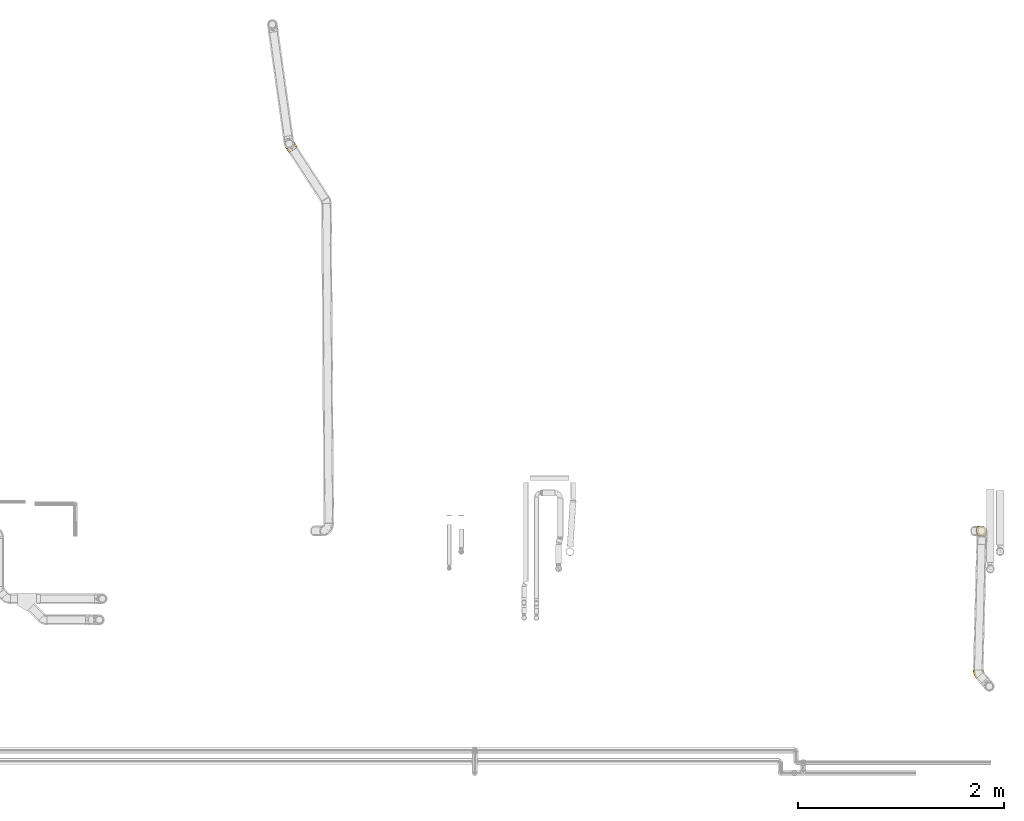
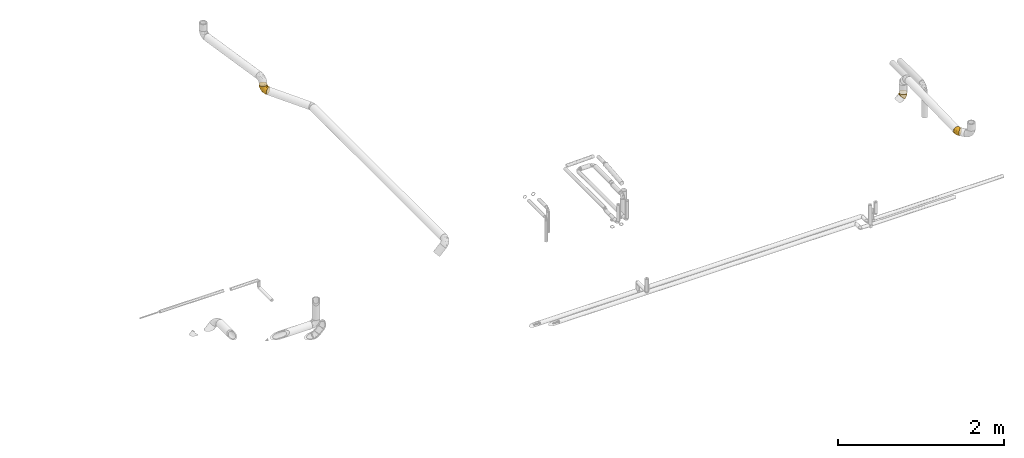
# One storey, part 38 of 156: 3 coverings.
"""IFC2X3 building model written with IfcOpenShell, lengths in millimetres."""

from ifc_helpers import new_model, entity, si_unit, converted_unit, derived_unit, direction, frame, origin_with_axes, place, context, subcontext, project, spatial, open_shell, surface_model, source, transform, mapped, element, save


model = new_model("IFC2X3")

# Units and contexts
model_context = context("Model", 3, precision=0.01, world=frame((0.0, 4.29681676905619e-09, 0.0)), true_north=direction((4.01073788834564e-13, 1.0)))
plan_context = context("Plan", 3, precision=0.01, world=frame((0.0, 4.29681676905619e-09, 0.0)), true_north=direction((4.01073788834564e-13, 1.0)))
body_context = subcontext(model_context, "Body", "Model", "MODEL_VIEW")
ifc_project = project(units=[converted_unit("PLANEANGLEUNIT", "DEGREE", entity("IfcPositiveLengthMeasure", 0.0174532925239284), si_unit("PLANEANGLEUNIT", "RADIAN"), dimensions=[0, 0, 0, 0, 0, 0, 0]), si_unit("AREAUNIT", "SQUARE_METRE"), si_unit("LENGTHUNIT", "METRE", prefix="MILLI"), si_unit("MASSUNIT", "GRAM", prefix="KILO"), si_unit("POWERUNIT", "WATT"), si_unit("PRESSUREUNIT", "PASCAL", prefix="KILO"), si_unit("FORCEUNIT", "NEWTON", prefix="KILO"), si_unit("ELECTRICVOLTAGEUNIT", "VOLT"), si_unit("ELECTRICCURRENTUNIT", "AMPERE"), si_unit("THERMODYNAMICTEMPERATUREUNIT", "DEGREE_CELSIUS"), si_unit("TIMEUNIT", "SECOND"), si_unit("VOLUMEUNIT", "CUBIC_METRE"), derived_unit("LINEARVELOCITYUNIT", [(si_unit("LENGTHUNIT", "METRE"), 1), (si_unit("TIMEUNIT", "SECOND"), -1)]), derived_unit("VOLUMETRICFLOWRATEUNIT", [(si_unit("VOLUMEUNIT", "CUBIC_METRE"), 1), (si_unit("TIMEUNIT", "SECOND"), -1)]), derived_unit("THERMALTRANSMITTANCEUNIT", [(si_unit("POWERUNIT", "WATT"), 1), (si_unit("THERMODYNAMICTEMPERATUREUNIT", "KELVIN"), -1), (si_unit("AREAUNIT", "SQUARE_METRE"), -1)]), derived_unit("SOUNDPRESSUREUNIT", [(si_unit("PRESSUREUNIT", "PASCAL"), 1)])], contexts=[model_context, plan_context])

# Site, building, storey
site_placement = place(None, frame((0.0, -4.29681676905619e-09, 0.0), z_axis=(0.0, 0.0, 1.0), x_axis=(1.0, 0.0, 0.0)))
site = spatial("IfcSite", under=ifc_project, at=site_placement, CompositionType="ELEMENT")
building_placement = place(site_placement, frame((0.0, 4.29681676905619e-09, 0.0), z_axis=(0.0, 0.0, 1.0), x_axis=(1.0, 0.0, 0.0)))
building = spatial("IfcBuilding", under=site, at=building_placement, Name="mc-building", CompositionType="ELEMENT")
storey_placement = place(building_placement, frame((0.0, 0.0, 205200.0), z_axis=(0.0, 0.0, 1.0), x_axis=(1.0, 0.0, 0.0)))
storey = spatial("IfcBuildingStorey", under=building, at=storey_placement, Name="Nivå D + 1,2 m", CompositionType="ELEMENT", Elevation=205200.0)

# Coverings
shared_shape_1 = source(origin_with_axes(), body_context, "Body", "SurfaceModel", [
    surface_model("IfcShellBasedSurfaceModel", [(-12.8457, 56.77968, 11.24292), (-12.84764, 56.78162, -11.23089), (-13.7419, 57.67589, 0.0), (-5.947, 49.88099, 31.49394), (-10.2029, 54.13688, 21.91909), (6.47865, 37.45533, 45.50245), (14.02555, 29.90843, 49.23533), (-0.29194, 44.22592, 39.48835), (29.91694, 14.01705, 49.23258), (21.96699, 21.96699, 50.5), (-31.06602, 25.25, -43.73428), (-31.06602, 50.5, 0.0), (-31.06602, 48.77925, -13.07036), (-31.06602, 43.73428, -25.25), (-31.06602, 13.07036, 48.77925), (-31.06602, 35.70889, -35.70889), (-31.06602, 13.07036, -48.77925), (-31.06602, 48.77925, 13.07036), (-31.06602, 35.70889, 35.70889), (-31.06602, 43.73428, 25.25), (-31.06602, 25.25, 43.73428), (-31.06602, 0.0, 50.5), (-31.06602, 0.0, -50.5), (-31.06602, -35.70889, -35.70889), (-31.06602, -13.07036, -48.77925), (-31.06602, -25.25, -43.73428), (-31.06602, -25.25, 43.73428), (-31.06602, -43.73428, -25.25), (-31.06602, -48.77925, -13.07036), (-31.06602, -50.5, 0.0), (-31.06602, -35.70889, 35.70889), (-31.06602, -13.07036, 48.77925), (-31.06602, -43.73428, 25.25), (-31.06602, -48.77925, 13.07036), (44.23657, -0.30259, 39.47635), (27.91001, -19.77547, 34.76667), (49.88947, -5.95549, 31.47888), (1.41577, -46.22369, 0.0), (-11.40017, -47.38831, 12.38309), (-8.74293, -38.48357, 29.95251), (31.68398, -33.68619, 0.0), (7.55474, -42.53704, 13.29129), (-9.06389, -30.95235, 38.04162), (34.28789, -29.09431, 15.96636), (15.01424, -34.38084, 25.32479), (-2.36476, 5.70904, 50.5), (-9.36764, -7.03445, 49.52895), (10.2572, 2.07109, 49.72335), (-8.37178, -17.70659, 46.1768), (9.50066, -20.74611, 41.35329), (14.85338, -6.42265, 46.9978), (-9.29892, -44.09145, 20.69599), (8.90841, -30.40154, 33.56936), (56.78162, -12.84764, 11.23089), (54.14208, -10.2081, 21.90382), (36.21763, -22.18027, 26.15461), (57.67589, -13.7419, 0.0), (27.84037, -9.29064, 42.13676), (37.46613, 6.46785, 45.49509), (-20.79304, 48.58309, 19.32551), (-26.44918, 47.1374, 19.07845), (-23.61531, 41.83953, 29.46524), (-1.17488, 17.41452, 49.47585), (-14.06989, 12.68578, 49.4155), (-21.92445, 19.8307, 46.75749), (-10.88746, 23.11094, 46.65592), (-18.20524, 54.69358, 0.0), (8.30371, 12.83748, 50.5), (-24.3338, 50.31714, 10.40952), (-19.30689, 52.34596, 10.11883), (-22.20424, 36.19202, 36.21736), (-18.99815, 30.03676, 41.72657), (-15.7369, 38.81514, 35.7157), (-8.57232, 42.77641, 35.7157), (-5.52639, 34.19353, 42.76423), (-13.96266, 47.66429, 26.87553), (-1.08153, 26.97177, 47.03628), (-16.2501, 51.28088, 18.38671), (-21.69027, 52.36495, 0.0), (-25.80115, 51.54725, 0.0), (-14.94908, 3.20586, 50.5), (-3.53914, 35.52551, -42.7546), (-10.74577, 41.37941, -35.70208), (-0.30259, 44.23657, -39.47635), (6.46785, 37.46613, -45.49509), (14.01705, 29.91694, -49.23258), (-0.90387, 25.09239, -47.6637), (-12.62734, 48.55836, -26.86021), (-5.95549, 49.88947, -31.47888), (-26.37815, 51.43248, 0.0), (-23.87524, 48.92946, -15.82645), (-16.71539, 2.85452, -50.5), (-18.51789, 45.30675, -26.86021), (-19.58101, 37.43174, -35.70238), (-24.61924, 42.24315, -28.60873), (-15.34005, 17.97223, -47.95027), (-22.11394, 29.49513, -41.60502), (-16.92844, 51.60902, -16.67216), (-10.2081, 54.14208, -21.90382), (-2.36476, 5.70904, -50.5), (-12.33365, 30.67097, -42.7546), (8.30371, 12.83748, -50.5), (21.96699, 21.96699, -50.5), (-9.39093, -7.02944, -49.5311), (14.84809, -6.40997, -47.00316), (-8.36548, -17.69129, -46.18271), (27.90408, -19.76379, -34.78041), (36.21251, -22.17262, -26.1698), (15.00964, -34.37336, -25.33976), (44.22592, -0.29194, -39.48835), (49.88099, -5.947, -31.49394), (34.28306, -29.09205, -15.9798), (54.13688, -10.2029, -21.91909), (-11.41141, -47.38686, -12.39583), (10.21933, 2.05233, -49.72376), (7.53272, -42.54113, -13.30224), (-9.05791, -30.94797, -38.0443), (-8.75334, -38.48533, -29.95289), (-9.30865, -44.09015, -20.70274), (37.45533, 6.47865, -45.50245), (29.90843, 14.02555, -49.23533), (9.49658, -20.73201, -41.3635), (27.83229, -9.278, -42.14666), (8.91048, -30.40337, -33.56661), (56.77968, -12.8457, -11.24292)], [open_shell([[[0, 1, 2]], [[3, 0, 4]], [[5, 6, 7]], [[0, 3, 7]], [[8, 6, 9]], [[10, 11, 12]], [[10, 12, 13]], [[11, 10, 14]], [[10, 13, 15]], [[14, 10, 16]], [[17, 18, 19]], [[18, 17, 14]], [[18, 14, 20]], [[17, 11, 14]], [[16, 21, 14]], [[16, 22, 21]], [[23, 22, 24]], [[23, 24, 25]], [[26, 23, 27]], [[23, 26, 21]], [[28, 29, 27]], [[26, 29, 30]], [[31, 21, 26]], [[32, 29, 33]], [[29, 32, 30]], [[27, 29, 26]], [[21, 22, 23]], [[34, 35, 36]], [[29, 37, 38]], [[32, 39, 30]], [[37, 40, 41]], [[42, 26, 30]], [[43, 44, 41]], [[45, 46, 47]], [[42, 48, 26]], [[46, 21, 31]], [[48, 49, 50]], [[38, 51, 33]], [[49, 42, 52]], [[39, 42, 30]], [[48, 46, 31]], [[43, 41, 40]], [[40, 53, 43]], [[54, 36, 55]], [[54, 55, 43]], [[50, 46, 48]], [[56, 53, 40]], [[57, 35, 34]], [[26, 48, 31]], [[44, 39, 51]], [[47, 9, 45]], [[58, 8, 50]], [[50, 49, 57]], [[43, 55, 44]], [[35, 55, 36]], [[58, 57, 34]], [[38, 41, 51]], [[50, 47, 46]], [[54, 43, 53]], [[21, 46, 45]], [[55, 35, 44]], [[51, 39, 32]], [[44, 35, 52]], [[52, 42, 39]], [[42, 49, 48]], [[44, 52, 39]], [[49, 52, 35]], [[50, 8, 47]], [[9, 47, 8]], [[33, 51, 32]], [[44, 51, 41]], [[50, 57, 58]], [[35, 57, 49]], [[29, 38, 33]], [[37, 41, 38]], [[59, 60, 61]], [[62, 63, 45]], [[14, 63, 64]], [[63, 62, 65]], [[0, 2, 66]], [[67, 6, 62]], [[59, 68, 60]], [[0, 66, 69]], [[70, 71, 72]], [[73, 74, 7]], [[61, 75, 59]], [[68, 59, 69]], [[74, 5, 7]], [[76, 6, 5]], [[3, 73, 7]], [[59, 77, 69]], [[70, 20, 71]], [[67, 62, 45]], [[62, 76, 65]], [[64, 65, 71]], [[68, 69, 78]], [[69, 77, 0]], [[68, 78, 79]], [[71, 74, 72]], [[66, 78, 69]], [[59, 75, 77]], [[75, 3, 4]], [[73, 75, 72]], [[65, 76, 74]], [[14, 21, 80]], [[67, 9, 6]], [[17, 79, 11]], [[63, 80, 45]], [[79, 17, 68]], [[60, 68, 17]], [[64, 63, 65]], [[14, 80, 63]], [[17, 19, 60]], [[61, 60, 19]], [[18, 61, 19]], [[61, 72, 75]], [[65, 74, 71]], [[20, 14, 64]], [[72, 61, 70]], [[20, 64, 71]], [[75, 73, 3]], [[74, 73, 72]], [[75, 4, 77]], [[0, 77, 4]], [[6, 76, 62]], [[5, 74, 76]], [[61, 18, 70]], [[20, 70, 18]], [[81, 82, 83]], [[84, 85, 86]], [[82, 87, 88]], [[12, 89, 90]], [[16, 91, 22]], [[92, 93, 94]], [[95, 10, 96]], [[66, 2, 1]], [[82, 93, 92]], [[90, 97, 92]], [[90, 92, 94]], [[91, 16, 95]], [[98, 97, 1]], [[99, 95, 86]], [[88, 87, 98]], [[88, 83, 82]], [[13, 12, 90]], [[15, 93, 96]], [[87, 97, 98]], [[92, 87, 82]], [[95, 100, 86]], [[81, 83, 84]], [[99, 86, 101]], [[86, 85, 101]], [[66, 97, 78]], [[81, 86, 100]], [[93, 82, 100]], [[90, 78, 97]], [[10, 95, 16]], [[97, 66, 1]], [[85, 102, 101]], [[95, 99, 91]], [[97, 87, 92]], [[86, 81, 84]], [[82, 81, 100]], [[96, 93, 100]], [[94, 15, 13]], [[95, 96, 100]], [[15, 96, 10]], [[15, 94, 93]], [[90, 94, 13]], [[89, 12, 11]], [[89, 78, 90]], [[103, 104, 105]], [[106, 107, 108]], [[99, 103, 22]], [[106, 109, 110]], [[111, 107, 112]], [[25, 24, 105]], [[28, 113, 29]], [[103, 99, 114]], [[111, 115, 108]], [[103, 105, 24]], [[116, 25, 105]], [[27, 117, 118]], [[22, 103, 24]], [[23, 117, 27]], [[119, 104, 120]], [[105, 121, 116]], [[104, 119, 122]], [[28, 118, 113]], [[122, 119, 109]], [[107, 106, 110]], [[123, 108, 117]], [[121, 122, 106]], [[115, 111, 40]], [[107, 110, 112]], [[124, 56, 40]], [[115, 40, 37]], [[124, 40, 111]], [[107, 111, 108]], [[105, 104, 121]], [[124, 111, 112]], [[114, 104, 103]], [[114, 102, 120]], [[118, 28, 27]], [[117, 116, 123]], [[116, 117, 23]], [[118, 108, 115]], [[25, 116, 23]], [[123, 121, 106]], [[121, 123, 116]], [[108, 123, 106]], [[102, 114, 99]], [[120, 104, 114]], [[108, 118, 117]], [[118, 115, 113]], [[106, 122, 109]], [[104, 122, 121]], [[115, 37, 113]], [[29, 113, 37]], [[83, 88, 84]], [[85, 120, 102]], [[110, 109, 112]], [[36, 58, 34]], [[119, 112, 109]], [[85, 84, 88]], [[7, 6, 0]], [[0, 120, 85]], [[0, 98, 1]], [[0, 88, 98]], [[88, 0, 85]], [[0, 6, 120]], [[120, 6, 8]], [[58, 120, 8]], [[36, 119, 58]], [[36, 54, 124]], [[54, 53, 124]], [[119, 120, 58]], [[124, 112, 119]], [[36, 124, 119]], [[56, 124, 53]]])]),
])
covering_1_placement = place(storey_placement, frame((347962.03069, 461168.55904, 4070.95318000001), z_axis=(0.0, -1.0, 0.0), x_axis=(0.707106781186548, 0.0, 0.707106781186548)))
element("IfcCovering", 1, at=covering_1_placement, inside=storey, Name="BI17T - Cellegummi 13 mm SPV fett", PredefinedType="INSULATION", context=body_context, shape_type="MappedRepresentation", body=[
    mapped(shared_shape_1, transform((0.0, 0.0, 0.0), scale=1.0)),
])
shared_shape_2 = source(origin_with_axes(), body_context, "Body", "SurfaceModel", [
    surface_model("IfcShellBasedSurfaceModel", [(-11.34242, 55.7024, 11.24292), (-11.34424, 55.70446, -11.23089), (-12.1823, 56.6516, 0.0), (-4.87729, 48.39582, 31.49394), (-8.86571, 52.90335, 21.91909), (6.76744, 35.23551, 45.50245), (13.84004, 27.24239, 49.23533), (0.42237, 42.40641, 39.48835), (47.44999, -10.74198, 31.47888), (-8.87058, 52.90886, -21.90382), (42.14238, -4.74357, -39.48835), (13.83206, 27.2514, -49.23258), (-4.88524, 48.40482, -31.47888), (6.75732, 35.24694, -45.49509), (0.41239, 42.41768, -39.47635), (21.28237, 18.83142, -50.5), (21.28237, 18.83142, 50.5), (28.73268, 10.41143, 49.23258), (35.80743, 2.41589, 45.49509), (51.43533, -15.24602, 21.90382), (53.90717, -18.03957, -11.24292), (42.15236, -4.75485, 39.47635), (54.74704, -18.98876, 0.0), (53.90898, -18.04163, 11.23089), (35.79731, 2.42733, -45.50245), (28.72471, 10.42044, -49.23533), (51.43045, -15.24051, -21.91909), (47.44204, -10.73299, -31.49394), (-28.41763, 25.25, -43.73428), (-28.41763, 50.5, 0.0), (-28.41763, 48.77925, -13.07036), (-28.41763, 43.73428, -25.25), (-28.41763, 13.07036, 48.77925), (-28.41763, 35.70889, -35.70889), (-28.41763, 13.07036, -48.77925), (-28.41763, 48.77925, 13.07036), (-28.41763, 35.70889, 35.70889), (-28.41763, 43.73428, 25.25), (-28.41763, 25.25, 43.73428), (-28.41763, 0.0, 50.5), (-28.41763, 0.0, -50.5), (-28.41763, -35.70889, -35.70889), (-28.41763, -13.07036, -48.77925), (-28.41763, -25.25, -43.73428), (-28.41763, -25.25, 43.73428), (-28.41763, -43.73428, -25.25), (-28.41763, -48.77925, -13.07036), (-28.41763, -50.5, 0.0), (-28.41763, -35.70889, 35.70889), (-28.41763, -13.07036, 48.77925), (-28.41763, -43.73428, 25.25), (-28.41763, -48.77925, 13.07036), (25.59155, -22.57102, 34.87712), (1.59175, -46.85929, 0.0), (14.31654, -35.58392, 25.55999), (0.97584, -33.05061, 34.39377), (-7.16069, -40.5612, 27.27638), (29.86001, -36.1484, 0.0), (3.50217, -44.36627, 13.86126), (31.65408, -32.19602, 16.05353), (-5.38919, -7.46594, 49.3705), (11.81405, 2.68366, 49.90114), (-1.84362, 4.86569, 50.5), (9.16533, -21.61559, 41.57399), (13.34439, -8.40045, 47.07841), (-7.9617, -18.72252, 45.95901), (34.48541, -24.98789, 26.27114), (-21.72085, 50.45536, 9.70757), (-23.18405, 47.46407, 18.54624), (-17.66861, 49.86572, 16.68598), (-11.20688, 12.00605, 49.5602), (7.20217, 10.32841, 50.5), (-5.4686, 21.3765, 47.66853), (-6.811, 32.26909, 42.60183), (-17.74819, 29.39098, 41.91998), (-17.86, 19.52368, 46.97832), (-20.88187, 42.77962, 28.17432), (-7.36265, 41.81847, 35.7157), (-13.79468, 46.08054, 27.12974), (-14.17482, 38.37394, 35.7157), (-21.258, 36.83564, 35.24188), (-16.78183, 53.87395, 0.0), (-19.73679, 52.08946, 0.0), (-12.2381, 2.96246, 50.5), (-23.13232, 51.46774, 0.0), (-2.65515, 34.35201, -42.7546), (-9.79501, 40.4102, -35.70208), (-0.7756, 23.6537, -47.6637), (-21.8864, 48.35042, -16.97437), (-15.46114, 50.9347, -16.67216), (-24.07721, 51.29473, 0.0), (-15.13062, 2.43284, -50.5), (-22.61263, 44.31828, -25.18117), (-18.72697, 36.55872, -36.05827), (-11.01944, 30.13055, -42.7546), (-14.61363, 18.65716, -47.55589), (-19.15937, 26.0649, -43.76496), (7.20217, 10.32841, -50.5), (-16.76315, 44.94475, -26.86021), (-1.84362, 4.86569, -50.5), (-11.16082, 47.77231, -26.86021), (13.33987, -8.38741, -47.08372), (0.96997, -33.0395, -34.40694), (-5.38231, -7.45666, -49.37202), (25.58619, -22.559, -34.89085), (-7.16911, -40.55339, -27.2907), (14.31201, -35.57622, -25.57501), (-7.97736, -18.70884, -45.96661), (9.16177, -21.6012, -41.58413), (11.81245, 2.68927, -49.90202), (31.64902, -32.19367, -16.067), (3.47616, -44.37001, -13.87212), (34.48061, -24.97995, -26.28636)], [open_shell([[[0, 1, 2]], [[3, 0, 4]], [[5, 6, 7]], [[0, 7, 8]], [[0, 3, 7]], [[9, 0, 10]], [[9, 11, 12]], [[9, 1, 0]], [[13, 14, 11]], [[11, 14, 12]], [[9, 10, 11]], [[10, 15, 11]], [[16, 7, 6]], [[8, 16, 17]], [[8, 17, 18]], [[19, 0, 8]], [[20, 0, 19]], [[18, 21, 8]], [[22, 19, 23]], [[15, 24, 25]], [[10, 24, 15]], [[26, 10, 20]], [[27, 10, 26]], [[20, 10, 0]], [[19, 22, 20]], [[8, 7, 16]], [[28, 29, 30]], [[28, 30, 31]], [[29, 28, 32]], [[28, 31, 33]], [[32, 28, 34]], [[35, 36, 37]], [[36, 35, 32]], [[36, 32, 38]], [[35, 29, 32]], [[34, 39, 32]], [[34, 40, 39]], [[41, 40, 42]], [[41, 42, 43]], [[44, 41, 45]], [[41, 44, 39]], [[46, 47, 45]], [[44, 47, 48]], [[49, 39, 44]], [[50, 47, 51]], [[47, 50, 48]], [[45, 47, 44]], [[39, 40, 41]], [[21, 52, 8]], [[51, 47, 53]], [[54, 55, 56]], [[53, 57, 58]], [[55, 44, 48]], [[59, 54, 58]], [[60, 61, 62]], [[63, 64, 65]], [[60, 39, 49]], [[65, 64, 60]], [[50, 51, 58]], [[55, 52, 63]], [[54, 52, 55]], [[63, 65, 44]], [[59, 58, 57]], [[57, 23, 59]], [[19, 8, 66]], [[19, 66, 59]], [[17, 61, 64]], [[22, 23, 57]], [[21, 63, 52]], [[59, 66, 54]], [[58, 54, 56]], [[61, 16, 62]], [[18, 17, 64]], [[63, 18, 64]], [[56, 48, 50]], [[44, 55, 63]], [[18, 63, 21]], [[51, 53, 58]], [[52, 66, 8]], [[19, 59, 23]], [[49, 44, 65]], [[66, 52, 54]], [[39, 60, 62]], [[49, 65, 60]], [[64, 61, 60]], [[16, 61, 17]], [[48, 56, 55]], [[58, 56, 50]], [[67, 68, 69]], [[70, 62, 71]], [[72, 73, 74]], [[74, 75, 72]], [[69, 68, 76]], [[77, 73, 7]], [[78, 76, 79]], [[74, 73, 79]], [[79, 76, 80]], [[0, 2, 81]], [[71, 16, 6]], [[35, 68, 67]], [[3, 4, 78]], [[74, 79, 80]], [[3, 77, 7]], [[69, 78, 4]], [[74, 36, 38]], [[72, 6, 5]], [[7, 73, 5]], [[75, 70, 72]], [[4, 0, 69]], [[79, 77, 78]], [[67, 81, 82]], [[72, 70, 71]], [[78, 77, 3]], [[0, 81, 69]], [[68, 37, 76]], [[73, 77, 79]], [[69, 76, 78]], [[72, 71, 6]], [[80, 37, 36]], [[5, 73, 72]], [[38, 32, 75]], [[39, 83, 70]], [[67, 82, 84]], [[29, 35, 67]], [[37, 68, 35]], [[67, 69, 81]], [[67, 84, 29]], [[37, 80, 76]], [[74, 80, 36]], [[38, 75, 74]], [[32, 39, 70]], [[32, 70, 75]], [[62, 70, 83]], [[85, 86, 14]], [[11, 87, 13]], [[88, 82, 89]], [[90, 82, 88]], [[34, 91, 40]], [[33, 92, 93]], [[94, 95, 96]], [[11, 15, 97]], [[93, 98, 86]], [[88, 89, 98]], [[92, 88, 98]], [[95, 99, 91]], [[1, 9, 89]], [[33, 31, 92]], [[12, 100, 9]], [[12, 14, 86]], [[88, 31, 30]], [[33, 93, 96]], [[100, 89, 9]], [[98, 100, 86]], [[87, 95, 94]], [[85, 14, 13]], [[99, 87, 97]], [[87, 11, 97]], [[95, 87, 99]], [[85, 87, 94]], [[93, 86, 94]], [[86, 100, 12]], [[28, 95, 34]], [[89, 81, 1]], [[93, 94, 96]], [[29, 90, 30]], [[81, 89, 82]], [[81, 2, 1]], [[89, 100, 98]], [[87, 85, 13]], [[86, 85, 94]], [[93, 92, 98]], [[31, 88, 92]], [[30, 90, 88]], [[91, 34, 95]], [[95, 28, 96]], [[96, 28, 33]], [[25, 24, 101]], [[43, 102, 41]], [[99, 103, 40]], [[104, 10, 27]], [[105, 102, 106]], [[107, 101, 108]], [[47, 46, 53]], [[103, 99, 109]], [[110, 111, 106]], [[104, 112, 106]], [[108, 102, 43]], [[45, 105, 111]], [[43, 42, 107]], [[105, 41, 102]], [[103, 109, 101]], [[110, 112, 26]], [[108, 101, 24]], [[53, 46, 111]], [[108, 24, 10]], [[112, 104, 27]], [[102, 104, 106]], [[104, 108, 10]], [[111, 110, 57]], [[112, 27, 26]], [[20, 22, 57]], [[111, 57, 53]], [[20, 57, 110]], [[112, 110, 106]], [[107, 108, 43]], [[20, 110, 26]], [[107, 103, 101]], [[109, 15, 25]], [[45, 111, 46]], [[108, 104, 102]], [[107, 42, 103]], [[40, 103, 42]], [[15, 109, 99]], [[101, 109, 25]], [[111, 105, 106]], [[41, 105, 45]]])]),
])
covering_2_placement = place(storey_placement, frame((347928.57176, 459787.38101, 4377.40570999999), z_axis=(0.0138610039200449, 0.0116310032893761, 0.999836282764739), x_axis=(-0.0261559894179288, -0.999585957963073, 0.0119906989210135)))
element("IfcCovering", 2, at=covering_2_placement, inside=storey, Name="BI17T - Cellegummi 13 mm SPV fett", PredefinedType="INSULATION", context=body_context, shape_type="MappedRepresentation", body=[
    mapped(shared_shape_2, transform((0.0, 0.0, 0.0), scale=1.0)),
])
shared_shape_3 = source(origin_with_axes(), body_context, "Body", "SurfaceModel", [
    surface_model("IfcShellBasedSurfaceModel", [(-45.49831, 73.29097, 0.0), (-44.23398, 73.20255, 11.24292), (-40.50559, 72.94184, 21.91909), (-34.50151, 72.522, 31.49394), (-16.97179, 71.2962, 45.50245), (-6.32486, 70.55169, 49.23533), (-26.52353, 71.96412, 39.48835), (-40.51293, 72.94235, -21.90382), (-26.53855, 71.96517, -39.47635), (-34.51349, 72.52283, -31.47888), (-44.23672, 73.20275, -11.23089), (-16.98703, 71.29727, -45.49509), (4.87867, 69.76827, -50.5), (-6.33686, 70.55253, -49.23258), (4.87867, 69.76827, 50.5), (36.29589, 67.57136, 39.47635), (16.09421, 68.984, 49.23258), (26.74437, 68.23927, 45.49509), (44.27084, 67.0137, 31.47888), (50.27028, 66.59417, 21.90382), (53.99132, 66.33397, -11.24292), (53.99406, 66.33378, 11.23089), (26.72914, 68.24033, -45.50245), (44.25886, 67.01453, -31.49394), (36.28087, 67.57241, -39.48835), (16.0822, 68.98484, -49.23533), (50.26294, 66.59469, -21.91909), (55.25566, 66.24556, 0.0), (-69.93863, 25.25, -43.73428), (-69.93863, 50.5, 0.0), (-69.93863, 48.77925, -13.07036), (-69.93863, 43.73428, -25.25), (-69.93863, 13.07036, 48.77925), (-69.93863, 35.70889, -35.70889), (-69.93863, 13.07036, -48.77925), (-69.93863, 48.77925, 13.07036), (-69.93863, 35.70889, 35.70889), (-69.93863, 43.73428, 25.25), (-69.93863, 25.25, 43.73428), (-69.93863, 0.0, 50.5), (-69.93863, 0.0, -50.5), (-69.93863, -35.70889, -35.70889), (-69.93863, -13.07036, -48.77925), (-69.93863, -25.25, -43.73428), (-69.93863, -25.25, 43.73428), (-69.93863, -43.73428, -25.25), (-69.93863, -48.77925, -13.07036), (-69.93863, -50.5, 0.0), (-69.93863, -35.70889, 35.70889), (-69.93863, -13.07036, 48.77925), (-69.93863, -43.73428, 25.25), (-69.93863, -48.77925, 13.07036), (13.79464, -14.79295, 16.36061), (0.96473, -28.55174, 0.0), (28.4149, -2.95405, 0.0), (-45.06617, -46.73839, 0.0), (-11.32409, -33.29244, 15.26443), (1.69459, -17.8078, 27.68127), (-40.67441, -43.71511, 17.77375), (-23.48175, -32.7381, 27.54331), (-48.45738, -39.1087, 29.32519), (-2.24474, 42.71167, 50.5), (-1.56918, 21.96688, 49.16688), (10.01339, 44.8691, 49.40882), (-12.30149, -10.52898, 41.93516), (-44.57901, -18.97667, 45.29078), (-40.34846, -29.0811, 38.04784), (-45.17287, -7.48569, 49.25973), (47.06801, 29.61612, 0.0), (47.2814, 37.25151, 15.2315), (36.57877, 11.0238, 11.15128), (34.72875, 16.98073, 23.55042), (-18.78875, 20.14847, 50.5), (-17.02751, -2.04468, 47.00362), (3.86049, 6.3304, 43.4086), (-24.03175, 5.46383, 49.80941), (-42.45104, 5.21868, 50.5), (29.82099, 45.46215, 41.3145), (36.38571, 37.73081, 33.63697), (44.7752, 44.8832, 25.47882), (20.69372, 3.50615, 30.25123), (4.92095, -4.67168, 37.04291), (22.11308, 18.34143, 38.14736), (-39.72402, -46.00861, 8.82053), (14.4074, 26.95031, 45.42098), (20.55956, 49.03489, 46.72847), (-32.82727, -44.88744, 0.0), (-14.97534, -21.34892, 35.49273), (-51.23202, 39.28696, 36.70493), (-39.56474, 34.69844, 44.13977), (-43.01724, 46.37196, 35.7157), (-50.80423, 12.67625, 49.53897), (-53.78529, 3.06681, 50.5), (-21.04161, 38.40077, 48.54282), (-34.26526, 22.66451, 49.13479), (-60.95858, 41.23821, 30.74245), (-59.83038, 18.30027, 47.4054), (-41.16436, 60.4464, 26.87553), (-38.72166, 66.9212, 26.87553), (-43.95964, 66.49323, 16.68598), (-65.1029, 47.07147, 19.32551), (-62.88789, 50.41549, 10.36717), (-31.05726, 42.69682, 44.18626), (-59.23725, 48.75371, 19.32551), (-45.99057, 53.89331, 26.35374), (-51.78799, 48.1579, 27.12438), (-59.89847, 31.89634, 40.06434), (-47.18002, 68.21586, 0.0), (-30.6199, 12.68358, 50.5), (-14.5064, 56.85047, 47.66853), (-32.59165, 62.77179, 35.7157), (-23.33426, 62.93879, 42.76423), (0.69254, 53.8682, 50.5), (-53.72223, 54.11018, 13.88147), (-26.98088, 53.27279, 42.76423), (-36.60497, 54.18743, 35.71532), (-48.11573, 59.57028, 14.83024), (-49.31392, 61.77611, 0.0), (-10.51674, 31.43007, 50.5), (-53.74979, 57.63959, 0.0), (-58.18566, 53.50308, 0.0), (-64.75857, 51.82359, 0.0), (-51.26318, 31.56879, 42.20951), (-49.79168, 23.09866, 46.65592), (-58.2024, 52.1433, 10.91523), (-51.23122, 39.28727, -36.70502), (-51.79491, 48.15118, -27.12704), (-43.02657, 46.38188, -35.70209), (-60.95858, 41.2382, -30.74245), (-65.1029, 47.07147, -19.32551), (-62.88789, 50.41549, -10.36717), (-59.23725, 48.75371, -19.32551), (-14.52003, 56.85327, -47.6637), (-58.20068, 52.14479, -10.91276), (-53.71887, 54.11203, -13.88358), (-38.73103, 66.92347, -26.8602), (-43.964, 66.49543, -16.67216), (-42.45104, 5.21868, -50.5), (-50.80423, 12.67625, -49.53897), (-34.26648, 22.66093, -49.13533), (-59.83038, 18.30027, -47.4054), (-23.34905, 62.94284, -42.7546), (-32.60459, 62.77602, -35.70208), (-53.78529, 3.06681, -50.5), (-59.89847, 31.89634, -40.06434), (-49.79167, 23.09866, -46.65592), (0.69254, 53.8682, -50.5), (-48.11411, 59.57816, -14.81975), (-26.99463, 53.27956, -42.7546), (-21.05949, 38.40048, -48.53876), (-39.5441, 34.70623, -44.14322), (-41.1729, 60.45085, -26.8602), (-51.26305, 31.56894, -42.20946), (-36.61587, 54.19423, -35.70247), (-2.24474, 42.71167, -50.5), (-33.82696, 44.46491, -42.21924), (-10.51674, 31.43007, -50.5), (-46.00665, 53.90054, -26.32619), (-18.78875, 20.14847, -50.5), (-30.6199, 12.68358, -50.5), (-24.03492, 5.46717, -49.81017), (1.69184, -17.79679, -27.69713), (4.91322, -4.66219, -37.05422), (20.68646, 3.5134, -30.26485), (-12.30517, -10.51921, -41.94198), (1.88909, 6.52942, -44.30519), (22.10144, 18.34737, -38.15866), (-1.57429, 21.97238, -49.16861), (-45.17287, -7.48569, -49.25973), (-23.46986, -32.7336, -27.54241), (-11.32153, -33.29166, -15.26272), (-40.66996, -43.71411, -17.7735), (-44.57847, -18.97659, -45.29075), (-40.34403, -29.08022, -38.04751), (-17.03276, -2.03898, -47.00663), (14.39607, 26.95649, -45.42724), (-48.45038, -39.10773, -29.32472), (13.79368, -14.79191, -16.36474), (-15.00768, -21.3493, -35.50861), (10.01021, 44.8661, -49.40923), (47.27681, 37.25078, -15.2446), (36.37316, 37.73163, -33.65052), (29.80657, 45.46365, -41.32452), (34.7217, 16.98389, -23.56501), (36.56889, 11.01221, -11.16233), (44.76516, 44.87863, -25.49345), (20.54642, 49.03729, -46.73392), (-39.72401, -46.00862, -8.82045)], [open_shell([[[0, 1, 2]], [[0, 2, 3]], [[4, 5, 6]], [[0, 6, 7]], [[0, 3, 6]], [[7, 6, 5]], [[7, 8, 9]], [[7, 10, 0]], [[8, 7, 11]], [[12, 13, 11]], [[11, 7, 5]], [[5, 12, 11]], [[5, 14, 12]], [[15, 14, 16]], [[15, 16, 17]], [[15, 18, 19]], [[12, 19, 20]], [[19, 14, 15]], [[20, 19, 21]], [[22, 23, 24]], [[23, 22, 25]], [[23, 25, 12]], [[26, 23, 20]], [[20, 23, 12]], [[21, 27, 20]], [[19, 12, 14]], [[28, 29, 30]], [[28, 30, 31]], [[29, 28, 32]], [[28, 31, 33]], [[32, 28, 34]], [[35, 36, 37]], [[36, 35, 32]], [[36, 32, 38]], [[35, 29, 32]], [[34, 39, 32]], [[34, 40, 39]], [[41, 40, 42]], [[41, 42, 43]], [[44, 41, 45]], [[41, 44, 39]], [[46, 47, 45]], [[44, 47, 48]], [[49, 39, 44]], [[50, 47, 51]], [[47, 50, 48]], [[45, 47, 44]], [[39, 40, 41]], [[52, 53, 54]], [[51, 47, 55]], [[56, 52, 57]], [[58, 59, 60]], [[61, 62, 63]], [[64, 65, 66]], [[50, 51, 58]], [[49, 65, 67]], [[48, 66, 44]], [[66, 48, 60]], [[68, 21, 69]], [[70, 69, 71]], [[62, 61, 72]], [[39, 49, 67]], [[73, 64, 74]], [[70, 68, 69]], [[75, 72, 76]], [[77, 15, 17]], [[77, 78, 15]], [[65, 44, 66]], [[19, 69, 21]], [[60, 48, 50]], [[79, 19, 18]], [[21, 68, 27]], [[75, 62, 72]], [[44, 65, 49]], [[57, 80, 81]], [[78, 18, 15]], [[63, 14, 61]], [[78, 82, 80]], [[51, 55, 83]], [[54, 70, 52]], [[84, 85, 63]], [[16, 85, 17]], [[56, 59, 58]], [[71, 78, 80]], [[79, 71, 69]], [[56, 86, 53]], [[87, 59, 57]], [[79, 69, 19]], [[74, 62, 73]], [[78, 77, 82]], [[18, 78, 79]], [[71, 79, 78]], [[85, 77, 17]], [[84, 74, 82]], [[84, 82, 77]], [[82, 81, 80]], [[58, 83, 56]], [[53, 52, 56]], [[64, 66, 87]], [[73, 75, 67]], [[73, 67, 65]], [[39, 67, 76]], [[52, 70, 71]], [[68, 70, 54]], [[81, 87, 57]], [[52, 71, 80]], [[56, 57, 59]], [[52, 80, 57]], [[64, 87, 81]], [[66, 59, 87]], [[74, 64, 81]], [[65, 64, 73]], [[82, 74, 81]], [[74, 84, 62]], [[84, 63, 62]], [[14, 63, 16]], [[63, 85, 16]], [[77, 85, 84]], [[58, 60, 50]], [[66, 60, 59]], [[67, 75, 76]], [[62, 75, 73]], [[83, 55, 86]], [[56, 83, 86]], [[51, 83, 58]], [[88, 89, 90]], [[76, 91, 92]], [[93, 89, 94]], [[91, 32, 92]], [[95, 37, 36]], [[32, 91, 96]], [[97, 98, 99]], [[2, 1, 99]], [[35, 100, 101]], [[90, 89, 102]], [[100, 95, 103]], [[90, 104, 105]], [[96, 106, 38]], [[100, 35, 37]], [[1, 0, 107]], [[94, 76, 108]], [[109, 93, 61]], [[36, 38, 106]], [[3, 110, 6]], [[4, 111, 109]], [[106, 95, 36]], [[2, 98, 3]], [[109, 112, 5]], [[113, 103, 105]], [[99, 98, 2]], [[110, 114, 111]], [[114, 110, 115]], [[116, 97, 99]], [[99, 117, 116]], [[88, 95, 106]], [[93, 109, 114]], [[98, 110, 3]], [[4, 109, 5]], [[115, 110, 97]], [[1, 107, 99]], [[4, 6, 111]], [[117, 99, 107]], [[93, 72, 118]], [[95, 88, 105]], [[116, 119, 113]], [[103, 95, 105]], [[101, 120, 121]], [[121, 29, 35]], [[89, 88, 122]], [[122, 88, 106]], [[88, 90, 105]], [[94, 89, 123]], [[114, 102, 93]], [[90, 115, 104]], [[105, 104, 113]], [[76, 94, 91]], [[103, 124, 101]], [[112, 109, 61]], [[112, 14, 5]], [[110, 98, 97]], [[110, 111, 6]], [[109, 111, 114]], [[94, 123, 91]], [[93, 94, 72]], [[97, 116, 104]], [[113, 104, 116]], [[104, 115, 97]], [[102, 115, 90]], [[32, 39, 92]], [[91, 123, 96]], [[106, 96, 123]], [[38, 32, 96]], [[95, 100, 37]], [[101, 100, 103]], [[103, 113, 124]], [[35, 101, 121]], [[113, 120, 124]], [[120, 101, 124]], [[106, 123, 122]], [[61, 93, 118]], [[89, 122, 123]], [[102, 114, 115]], [[89, 93, 102]], [[119, 116, 117]], [[119, 120, 113]], [[108, 72, 94]], [[125, 126, 127]], [[31, 128, 33]], [[129, 130, 131]], [[132, 11, 13]], [[131, 133, 134]], [[129, 31, 30]], [[135, 136, 7]], [[137, 138, 139]], [[34, 140, 138]], [[141, 142, 8]], [[34, 138, 143]], [[28, 33, 144]], [[144, 33, 128]], [[138, 140, 145]], [[107, 0, 10]], [[132, 13, 146]], [[117, 136, 147]], [[128, 126, 125]], [[136, 117, 107]], [[136, 10, 7]], [[129, 128, 31]], [[8, 11, 141]], [[148, 132, 149]], [[8, 142, 9]], [[150, 139, 145]], [[135, 142, 151]], [[145, 152, 150]], [[142, 153, 151]], [[154, 132, 146]], [[149, 150, 155]], [[154, 149, 132]], [[141, 132, 148]], [[134, 119, 147]], [[149, 154, 156]], [[136, 151, 147]], [[9, 135, 7]], [[107, 10, 136]], [[153, 142, 148]], [[125, 152, 144]], [[157, 127, 126]], [[157, 134, 147]], [[30, 29, 121]], [[125, 144, 128]], [[140, 144, 145]], [[126, 128, 131]], [[125, 127, 150]], [[155, 150, 127]], [[139, 149, 158]], [[134, 126, 131]], [[157, 151, 153]], [[133, 131, 130]], [[119, 117, 147]], [[13, 12, 146]], [[132, 141, 11]], [[142, 141, 148]], [[142, 135, 9]], [[136, 135, 151]], [[134, 157, 126]], [[147, 151, 157]], [[149, 139, 150]], [[139, 159, 137]], [[155, 153, 148]], [[157, 153, 127]], [[143, 138, 137]], [[143, 40, 34]], [[139, 138, 145]], [[34, 28, 140]], [[144, 140, 28]], [[130, 30, 121]], [[128, 129, 131]], [[30, 130, 129]], [[120, 130, 121]], [[130, 120, 133]], [[120, 134, 133]], [[150, 152, 125]], [[156, 158, 149]], [[145, 144, 152]], [[153, 155, 127]], [[149, 155, 148]], [[134, 120, 119]], [[139, 158, 159]], [[158, 160, 137]], [[161, 162, 163]], [[164, 165, 162]], [[162, 166, 163]], [[158, 154, 167]], [[137, 168, 40]], [[169, 170, 171]], [[172, 173, 43]], [[47, 46, 55]], [[160, 167, 174]], [[165, 167, 175]], [[176, 171, 45]], [[45, 171, 46]], [[169, 176, 173]], [[177, 54, 53]], [[173, 41, 43]], [[178, 164, 162]], [[175, 167, 179]], [[154, 179, 167]], [[172, 43, 42]], [[12, 25, 179]], [[26, 20, 180]], [[23, 181, 24]], [[24, 182, 22]], [[163, 166, 181]], [[181, 182, 24]], [[161, 170, 169]], [[183, 184, 177]], [[183, 180, 184]], [[180, 185, 26]], [[182, 166, 175]], [[185, 23, 26]], [[20, 27, 68]], [[174, 172, 168]], [[161, 178, 162]], [[183, 181, 185]], [[20, 68, 180]], [[41, 176, 45]], [[184, 68, 54]], [[25, 22, 186]], [[187, 86, 55]], [[187, 46, 171]], [[183, 185, 180]], [[181, 23, 185]], [[166, 182, 181]], [[186, 182, 175]], [[163, 181, 183]], [[166, 162, 165]], [[177, 53, 170]], [[86, 170, 53]], [[168, 172, 42]], [[172, 174, 164]], [[40, 168, 42]], [[168, 137, 160]], [[68, 184, 180]], [[177, 184, 54]], [[183, 177, 163]], [[161, 169, 178]], [[163, 177, 161]], [[170, 161, 177]], [[169, 173, 178]], [[173, 172, 164]], [[164, 178, 173]], [[165, 164, 174]], [[167, 165, 174]], [[165, 175, 166]], [[12, 179, 154]], [[179, 25, 186]], [[182, 186, 22]], [[179, 186, 175]], [[173, 176, 41]], [[171, 176, 169]], [[167, 160, 158]], [[168, 160, 174]], [[187, 170, 86]], [[46, 187, 55]], [[170, 187, 171]]])]),
])
covering_3_placement = place(storey_placement, frame((341228.50699, 464934.15376, 4224.58880999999), z_axis=(0.838670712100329, 0.544638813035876, 0.0), x_axis=(-0.543312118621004, 0.836627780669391, 0.0697559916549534)))
element("IfcCovering", 3, at=covering_3_placement, inside=storey, Name="BI17T - Cellegummi 13 mm SPV fett", PredefinedType="INSULATION", context=body_context, shape_type="MappedRepresentation", body=[
    mapped(shared_shape_3, transform((0.0, 0.0, 0.0), scale=1.0)),
])

save(model, "model.ifc")
